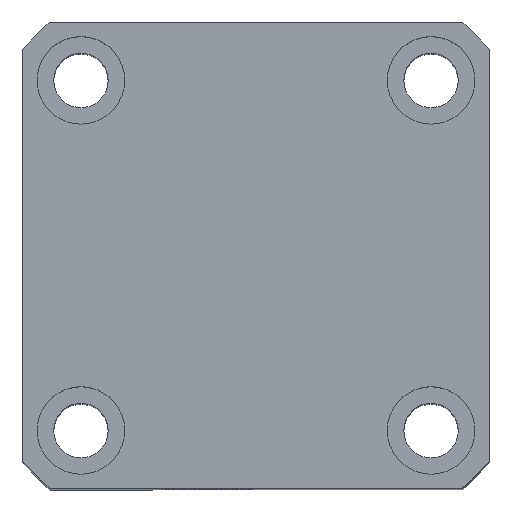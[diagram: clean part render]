
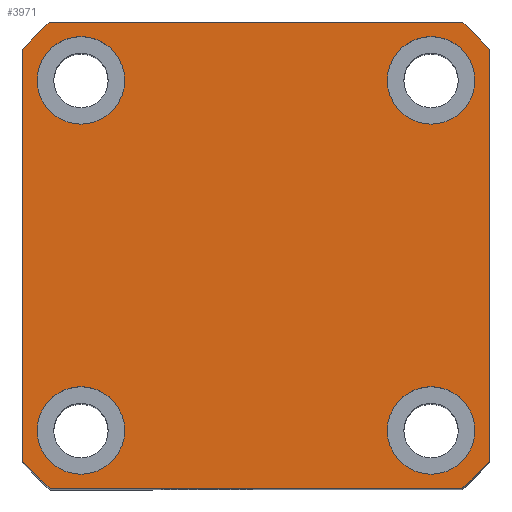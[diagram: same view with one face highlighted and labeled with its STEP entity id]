
A CAD part, top view. The second image highlights one B-rep face of the part: STEP entity #3971.
In plain terms, the highlighted planar face has unit normal (0, 0, 1) as drawn and (1, 0, 0) by its records, which use the part's own axes.
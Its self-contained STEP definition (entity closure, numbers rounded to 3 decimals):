
#34 = FACE_BOUND ( 'NONE', #3358, .T. ) ;
#76 = AXIS2_PLACEMENT_3D ( 'NONE', #191, #4552, #817 ) ;
#152 = CARTESIAN_POINT ( 'NONE',  ( 70., -24., 21.166 ) ) ;
#191 = CARTESIAN_POINT ( 'NONE',  ( 70., 0., 0. ) ) ;
#248 = CIRCLE ( 'NONE', #6392, 4.5 ) ;
#299 = VERTEX_POINT ( 'NONE', #6441 ) ;
#589 = DIRECTION ( 'NONE',  ( 0., 0., -1. ) ) ;
#620 = CIRCLE ( 'NONE', #7550, 4.5 ) ;
#641 = EDGE_LOOP ( 'NONE', ( #5229, #2303 ) ) ;
#649 = ORIENTED_EDGE ( 'NONE', *, *, #6571, .F. ) ;
#663 = EDGE_CURVE ( 'NONE', #5954, #5216, #4359, .T. ) ;
#776 = CARTESIAN_POINT ( 'NONE',  ( 70., 18., 18. ) ) ;
#817 = DIRECTION ( 'NONE',  ( 0., 0., -1. ) ) ;
#821 = ORIENTED_EDGE ( 'NONE', *, *, #663, .T. ) ;
#902 = CARTESIAN_POINT ( 'NONE',  ( 70., -18., 22.5 ) ) ;
#956 = AXIS2_PLACEMENT_3D ( 'NONE', #3928, #3937, #3939 ) ;
#1004 = VECTOR ( 'NONE', #3627, 1000. ) ;
#1035 = CARTESIAN_POINT ( 'NONE',  ( 70., 21.166, 24. ) ) ;
#1246 = EDGE_CURVE ( 'NONE', #7257, #4789, #7769, .T. ) ;
#1380 = CARTESIAN_POINT ( 'NONE',  ( 70., 18., 13.5 ) ) ;
#1428 = DIRECTION ( 'NONE',  ( 0., 0., -1. ) ) ;
#1508 = CARTESIAN_POINT ( 'NONE',  ( 70., 21.166, -24. ) ) ;
#1536 = ORIENTED_EDGE ( 'NONE', *, *, #3719, .F. ) ;
#1625 = EDGE_CURVE ( 'NONE', #2817, #7090, #3590, .T. ) ;
#1704 = FACE_BOUND ( 'NONE', #7336, .T. ) ;
#1819 = CIRCLE ( 'NONE', #3057, 32. ) ;
#1838 = ORIENTED_EDGE ( 'NONE', *, *, #2347, .F. ) ;
#1857 = DIRECTION ( 'NONE',  ( 0., 1., 0. ) ) ;
#2004 = DIRECTION ( 'NONE',  ( 0., 0., -1. ) ) ;
#2061 = DIRECTION ( 'NONE',  ( 1., 0., 0. ) ) ;
#2081 = CARTESIAN_POINT ( 'NONE',  ( 70., 0., 0. ) ) ;
#2303 = ORIENTED_EDGE ( 'NONE', *, *, #1625, .F. ) ;
#2347 = EDGE_CURVE ( 'NONE', #4329, #299, #5212, .T. ) ;
#2364 = VERTEX_POINT ( 'NONE', #6349 ) ;
#2376 = AXIS2_PLACEMENT_3D ( 'NONE', #2643, #2650, #2652 ) ;
#2413 = CARTESIAN_POINT ( 'NONE',  ( 70., -24., 24. ) ) ;
#2437 = DIRECTION ( 'NONE',  ( 0., 0., -1. ) ) ;
#2489 = VERTEX_POINT ( 'NONE', #6925 ) ;
#2490 = LINE ( 'NONE', #3563, #1004 ) ;
#2507 = EDGE_CURVE ( 'NONE', #4617, #2364, #248, .T. ) ;
#2591 = CIRCLE ( 'NONE', #4393, 4.5 ) ;
#2643 = CARTESIAN_POINT ( 'NONE',  ( 70., 0., 0. ) ) ;
#2650 = DIRECTION ( 'NONE',  ( 1., 0., 0. ) ) ;
#2652 = DIRECTION ( 'NONE',  ( 0., 0., -1. ) ) ;
#2807 = AXIS2_PLACEMENT_3D ( 'NONE', #776, #5135, #1428 ) ;
#2817 = VERTEX_POINT ( 'NONE', #4426 ) ;
#2855 = DIRECTION ( 'NONE',  ( 1., 0., 0. ) ) ;
#3057 = AXIS2_PLACEMENT_3D ( 'NONE', #2081, #2061, #2004 ) ;
#3186 = EDGE_LOOP ( 'NONE', ( #5597, #3394 ) ) ;
#3358 = EDGE_LOOP ( 'NONE', ( #1536, #649 ) ) ;
#3378 = FACE_BOUND ( 'NONE', #3186, .T. ) ;
#3388 = CARTESIAN_POINT ( 'NONE',  ( 70., 24., -21.166 ) ) ;
#3392 = CARTESIAN_POINT ( 'NONE',  ( 70., 24., 21.166 ) ) ;
#3394 = ORIENTED_EDGE ( 'NONE', *, *, #2507, .F. ) ;
#3426 = EDGE_CURVE ( 'NONE', #5439, #5869, #1819, .T. ) ;
#3428 = VERTEX_POINT ( 'NONE', #5719 ) ;
#3437 = CARTESIAN_POINT ( 'NONE',  ( 70., -21.166, -24. ) ) ;
#3481 = ORIENTED_EDGE ( 'NONE', *, *, #3614, .T. ) ;
#3510 = EDGE_LOOP ( 'NONE', ( #5395, #4443, #3481, #7949, #7573, #821, #7466, #5958 ) ) ;
#3517 = AXIS2_PLACEMENT_3D ( 'NONE', #6540, #6568, #6578 ) ;
#3563 = CARTESIAN_POINT ( 'NONE',  ( 70., 24., 24. ) ) ;
#3590 = CIRCLE ( 'NONE', #956, 4.5 ) ;
#3614 = EDGE_CURVE ( 'NONE', #5869, #7257, #2490, .T. ) ;
#3627 = DIRECTION ( 'NONE',  ( 0., 0., 1. ) ) ;
#3662 = CIRCLE ( 'NONE', #7575, 4.5 ) ;
#3671 = EDGE_CURVE ( 'NONE', #5216, #3428, #7368, .T. ) ;
#3719 = EDGE_CURVE ( 'NONE', #7568, #2489, #620, .T. ) ;
#3725 = CARTESIAN_POINT ( 'NONE',  ( 70., 24., -24. ) ) ;
#3928 = CARTESIAN_POINT ( 'NONE',  ( 70., 18., 18. ) ) ;
#3936 = AXIS2_PLACEMENT_3D ( 'NONE', #4424, #4410, #4407 ) ;
#3937 = DIRECTION ( 'NONE',  ( 1., 0., 0. ) ) ;
#3939 = DIRECTION ( 'NONE',  ( 0., 0., -1. ) ) ;
#3971 = ADVANCED_FACE ( 'NONE', ( #1704, #3378, #34, #6436, #4804 ), #5899, .T. ) ;
#4024 = CIRCLE ( 'NONE', #4822, 4.5 ) ;
#4280 = EDGE_CURVE ( 'NONE', #2364, #4617, #2591, .T. ) ;
#4329 = VERTEX_POINT ( 'NONE', #5663 ) ;
#4337 = DIRECTION ( 'NONE',  ( 1., 0., 0. ) ) ;
#4359 = CIRCLE ( 'NONE', #3936, 32. ) ;
#4393 = AXIS2_PLACEMENT_3D ( 'NONE', #6065, #6034, #6007 ) ;
#4407 = DIRECTION ( 'NONE',  ( 0., 0., -1. ) ) ;
#4410 = DIRECTION ( 'NONE',  ( 1., 0., 0. ) ) ;
#4424 = CARTESIAN_POINT ( 'NONE',  ( 70., 0., 0. ) ) ;
#4426 = CARTESIAN_POINT ( 'NONE',  ( 70., 18., 22.5 ) ) ;
#4443 = ORIENTED_EDGE ( 'NONE', *, *, #3426, .T. ) ;
#4552 = DIRECTION ( 'NONE',  ( 1., 0., 0. ) ) ;
#4617 = VERTEX_POINT ( 'NONE', #902 ) ;
#4658 = VERTEX_POINT ( 'NONE', #3437 ) ;
#4662 = CARTESIAN_POINT ( 'NONE',  ( 70., 24., 24. ) ) ;
#4677 = EDGE_CURVE ( 'NONE', #4789, #5954, #6344, .T. ) ;
#4720 = CARTESIAN_POINT ( 'NONE',  ( 70., -21.166, 24. ) ) ;
#4789 = VERTEX_POINT ( 'NONE', #1035 ) ;
#4804 = FACE_OUTER_BOUND ( 'NONE', #3510, .T. ) ;
#4822 = AXIS2_PLACEMENT_3D ( 'NONE', #7981, #4337, #589 ) ;
#4926 = DIRECTION ( 'NONE',  ( 0., 0., -1. ) ) ;
#4954 = DIRECTION ( 'NONE',  ( 1., 0., 0. ) ) ;
#4963 = AXIS2_PLACEMENT_3D ( 'NONE', #5336, #4954, #4926 ) ;
#5135 = DIRECTION ( 'NONE',  ( 1., 0., 0. ) ) ;
#5209 = EDGE_CURVE ( 'NONE', #7090, #2817, #5857, .T. ) ;
#5212 = CIRCLE ( 'NONE', #3517, 4.5 ) ;
#5216 = VERTEX_POINT ( 'NONE', #152 ) ;
#5229 = ORIENTED_EDGE ( 'NONE', *, *, #5209, .F. ) ;
#5336 = CARTESIAN_POINT ( 'NONE',  ( 70., 0., 0. ) ) ;
#5395 = ORIENTED_EDGE ( 'NONE', *, *, #6572, .T. ) ;
#5410 = DIRECTION ( 'NONE',  ( 0., 0., -1. ) ) ;
#5434 = DIRECTION ( 'NONE',  ( 1., 0., 0. ) ) ;
#5439 = VERTEX_POINT ( 'NONE', #1508 ) ;
#5460 = CARTESIAN_POINT ( 'NONE',  ( 70., 18., -18. ) ) ;
#5465 = VECTOR ( 'NONE', #1857, 1000. ) ;
#5597 = ORIENTED_EDGE ( 'NONE', *, *, #4280, .F. ) ;
#5659 = LINE ( 'NONE', #3725, #5465 ) ;
#5663 = CARTESIAN_POINT ( 'NONE',  ( 70., -18., -22.5 ) ) ;
#5719 = CARTESIAN_POINT ( 'NONE',  ( 70., -24., -21.166 ) ) ;
#5771 = VECTOR ( 'NONE', #6509, 1000. ) ;
#5800 = ORIENTED_EDGE ( 'NONE', *, *, #5925, .F. ) ;
#5857 = CIRCLE ( 'NONE', #2807, 4.5 ) ;
#5869 = VERTEX_POINT ( 'NONE', #3388 ) ;
#5899 = PLANE ( 'NONE',  #4963 ) ;
#5925 = EDGE_CURVE ( 'NONE', #299, #4329, #3662, .T. ) ;
#5954 = VERTEX_POINT ( 'NONE', #4720 ) ;
#5958 = ORIENTED_EDGE ( 'NONE', *, *, #6865, .T. ) ;
#6007 = DIRECTION ( 'NONE',  ( 0., 0., -1. ) ) ;
#6034 = DIRECTION ( 'NONE',  ( 1., 0., 0. ) ) ;
#6065 = CARTESIAN_POINT ( 'NONE',  ( 70., -18., 18. ) ) ;
#6344 = LINE ( 'NONE', #4662, #5771 ) ;
#6349 = CARTESIAN_POINT ( 'NONE',  ( 70., -18., 13.5 ) ) ;
#6392 = AXIS2_PLACEMENT_3D ( 'NONE', #6956, #6964, #6977 ) ;
#6436 = FACE_BOUND ( 'NONE', #641, .T. ) ;
#6441 = CARTESIAN_POINT ( 'NONE',  ( 70., -18., -13.5 ) ) ;
#6509 = DIRECTION ( 'NONE',  ( 0., -1., 0. ) ) ;
#6537 = CARTESIAN_POINT ( 'NONE',  ( 70., -18., -18. ) ) ;
#6540 = CARTESIAN_POINT ( 'NONE',  ( 70., -18., -18. ) ) ;
#6568 = DIRECTION ( 'NONE',  ( 1., 0., 0. ) ) ;
#6571 = EDGE_CURVE ( 'NONE', #2489, #7568, #4024, .T. ) ;
#6572 = EDGE_CURVE ( 'NONE', #4658, #5439, #5659, .T. ) ;
#6578 = DIRECTION ( 'NONE',  ( 0., 0., -1. ) ) ;
#6865 = EDGE_CURVE ( 'NONE', #3428, #4658, #7735, .T. ) ;
#6925 = CARTESIAN_POINT ( 'NONE',  ( 70., 18., -13.5 ) ) ;
#6956 = CARTESIAN_POINT ( 'NONE',  ( 70., -18., 18. ) ) ;
#6964 = DIRECTION ( 'NONE',  ( 1., 0., 0. ) ) ;
#6977 = DIRECTION ( 'NONE',  ( 0., 0., -1. ) ) ;
#7090 = VERTEX_POINT ( 'NONE', #1380 ) ;
#7123 = DIRECTION ( 'NONE',  ( 0., 0., -1. ) ) ;
#7171 = VECTOR ( 'NONE', #2437, 1000. ) ;
#7257 = VERTEX_POINT ( 'NONE', #3392 ) ;
#7314 = CARTESIAN_POINT ( 'NONE',  ( 70., 18., -22.5 ) ) ;
#7336 = EDGE_LOOP ( 'NONE', ( #1838, #5800 ) ) ;
#7368 = LINE ( 'NONE', #2413, #7171 ) ;
#7466 = ORIENTED_EDGE ( 'NONE', *, *, #3671, .T. ) ;
#7550 = AXIS2_PLACEMENT_3D ( 'NONE', #5460, #5434, #5410 ) ;
#7568 = VERTEX_POINT ( 'NONE', #7314 ) ;
#7573 = ORIENTED_EDGE ( 'NONE', *, *, #4677, .T. ) ;
#7575 = AXIS2_PLACEMENT_3D ( 'NONE', #6537, #2855, #7123 ) ;
#7735 = CIRCLE ( 'NONE', #76, 32. ) ;
#7769 = CIRCLE ( 'NONE', #2376, 32. ) ;
#7949 = ORIENTED_EDGE ( 'NONE', *, *, #1246, .T. ) ;
#7981 = CARTESIAN_POINT ( 'NONE',  ( 70., 18., -18. ) ) ;
